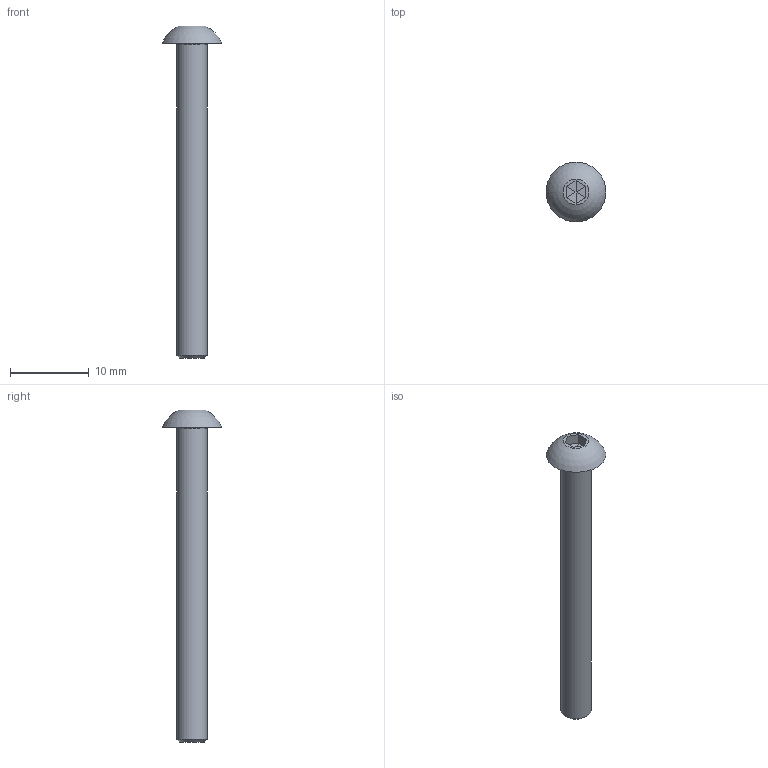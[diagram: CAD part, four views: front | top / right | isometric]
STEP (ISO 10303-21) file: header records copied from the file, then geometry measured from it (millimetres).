
FILE_DESCRIPTION(/* description */ (''),/* implementation_level */ '2;1');
FILE_NAME(/* name */ 'M4 Socket Button Head Bolt - ISO 7380 - A2 Stainless Steel.step',/* time_stamp */ '2024-06-29T05:21:09+03:00',/* author */ (''),/* organization */ (''),/* preprocessor_version */ 'ST-DEVELOPER v20',/* originating_system */ 'Autodesk Translation Framework v13.14.0.145',/* authorisation */ '');
FILE_SCHEMA (('AUTOMOTIVE_DESIGN { 1 0 10303 214 3 1 1 }'));
Length unit declared in the file: millimetre
Products named in the file (2): M4 Socket Button Head Bolt - ISO 7380 - A2 Stainless Steel; Hexagon Socket Button Head Screw DIN EN ISO 7380-1 - M4 x 40 Stainles
s Steel A2 Plain v1
Assembly tree (1 placements, depth 2):
  M4 Socket Button Head Bolt - ISO 7380 - A2 Stainless Steel
    Hexagon Socket Button Head Screw DIN EN ISO 7380-1 - M4 x 40 Stainles
s Steel A2 Plain v1
Bounding box: 7.6 x 7.6 x 42.2 mm (x, y, z)
Volume: 536.6 mm3; surface area: 609.3 mm2
Topology: 1 solids, 1 shells, 19 faces, 34 edges, 19 vertices
Faces by surface type: plane 15, cone 1, torus 1, cylinder 1, sphere 1
Full cylindrical faces by diameter (mm): 3.908 x1
Entity records: 508 total; most frequent: DIRECTION 86, CARTESIAN_POINT 75, ORIENTED_EDGE 68, EDGE_CURVE 34, AXIS2_PLACEMENT_3D 30, LINE 26, VECTOR 26, EDGE_LOOP 21
